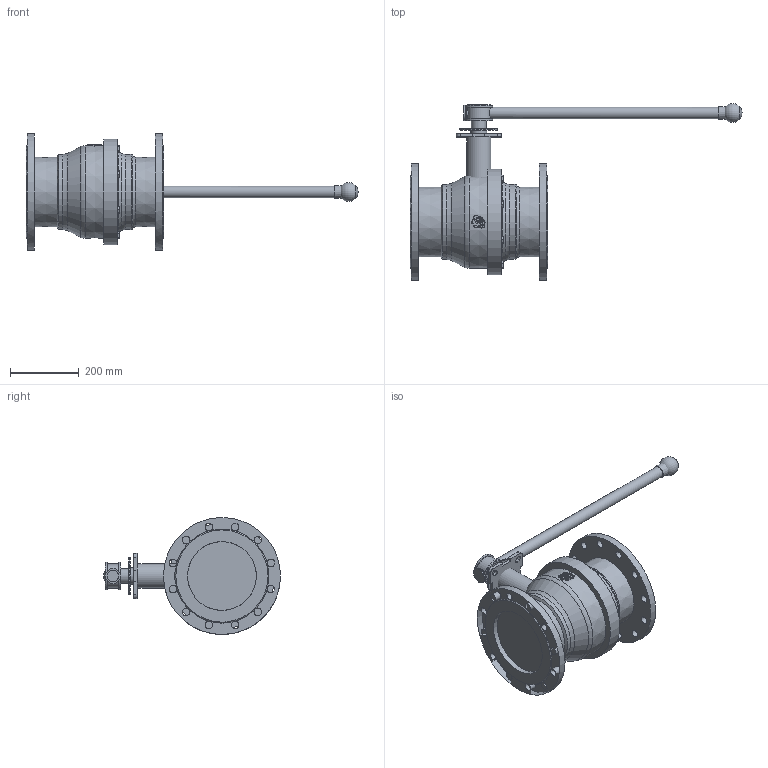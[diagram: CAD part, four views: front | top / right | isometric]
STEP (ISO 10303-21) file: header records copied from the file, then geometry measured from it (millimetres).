
FILE_DESCRIPTION(('STEP AP203'), '1');
FILE_NAME('3D_7528-200-16', '', ('UNSPECIFIED'), ('UNSPECIFIED'), 'C3D Converter', 'C3D Toolkit', '');
FILE_SCHEMA(('CONFIG_CONTROL_DESIGN'));
Length unit declared in the file: millimetre
Assembly tree (9 placements, depth 3):
  (unnamed)
    (unnamed)
      (unnamed)  x6
      (unnamed)
      (unnamed)
Bounding box: 965.1 x 514.26 x 340 mm (x, y, z)
Volume: 21026887.5 mm3; surface area: 1011687.2 mm2
Topology: 21 solids, 21 shells, 1084 faces, 3260 edges, 2210 vertices
Faces by surface type: plane 948, cylinder 65, cone 48, torus 23
Full cylindrical faces by diameter (mm): 12 x16, 22 x24, 33.635 x1, 42.955 x1, 47.007 x1, 70.917 x1, 79.832 x2, 110.224 x1, 200 x2
Entity records: 51943 total; most frequent: CARTESIAN_POINT 16479, ORIENTED_EDGE 5868, DIRECTION 5017, EDGE_CURVE 2934, LINE 2571, VECTOR 2571, VERTEX_POINT 2033, AXIS2_PLACEMENT_3D 1223
